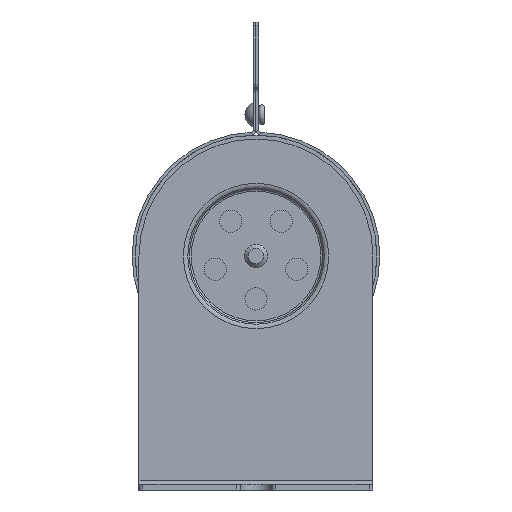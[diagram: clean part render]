
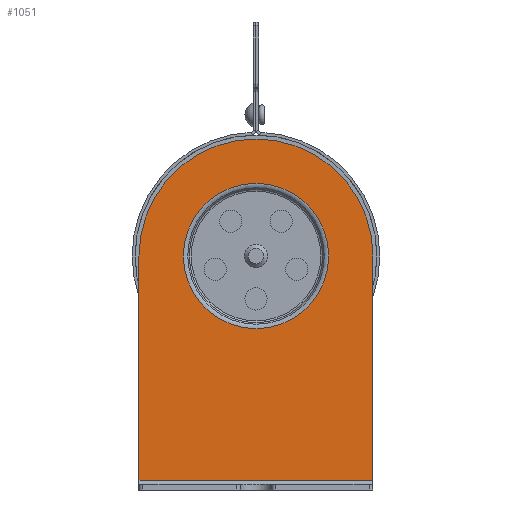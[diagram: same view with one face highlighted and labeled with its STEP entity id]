
A CAD part, left-side view. The second image highlights one B-rep face of the part: STEP entity #1051.
In plain terms, the highlighted planar face has unit normal (-1, 0, 0) as drawn and (1, 0, 0) by its records, which use the part's own axes.
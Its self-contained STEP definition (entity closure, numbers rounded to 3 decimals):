
#1051=ADVANCED_FACE('',(#1904,#1906),#1908,.T.);
#1904=FACE_BOUND('',#1905,.T.);
#1905=EDGE_LOOP('',(#3084,#3085,#3086,#3087));
#1906=FACE_BOUND('',#1907,.T.);
#1907=EDGE_LOOP('',(#3088));
#1908=PLANE('',#1909);
#1909=AXIS2_PLACEMENT_3D('',#1910,#1911,#1912);
#1910=CARTESIAN_POINT('',(1.5,0.,0.));
#1911=DIRECTION('',(1.,0.,0.));
#1912=DIRECTION('',(0.,1.,0.));
#3084=ORIENTED_EDGE('',*,*,#3724,.T.);
#3085=ORIENTED_EDGE('',*,*,#3725,.T.);
#3086=ORIENTED_EDGE('',*,*,#3726,.T.);
#3087=ORIENTED_EDGE('',*,*,#3727,.T.);
#3088=ORIENTED_EDGE('',*,*,#3722,.F.);
#3722=EDGE_CURVE('',#4081,#4081,#4082,.T.);
#3724=EDGE_CURVE('',#4085,#4086,#4087,.T.);
#3725=EDGE_CURVE('',#4086,#4088,#4089,.T.);
#3726=EDGE_CURVE('',#4088,#4090,#4091,.T.);
#3727=EDGE_CURVE('',#4090,#4085,#4092,.T.);
#4081=VERTEX_POINT('',#4717);
#4082=CIRCLE('',#4718,18.64);
#4085=VERTEX_POINT('',#4727);
#4086=VERTEX_POINT('',#4728);
#4087=LINE('',#4729,#4730);
#4088=VERTEX_POINT('',#4732);
#4089=LINE('',#4733,#4734);
#4090=VERTEX_POINT('',#4736);
#4091=CIRCLE('',#4737,30.);
#4092=LINE('',#4741,#4742);
#4717=CARTESIAN_POINT('',(1.5,18.64,15.));
#4718=AXIS2_PLACEMENT_3D('',#4719,#4720,#4721);
#4719=CARTESIAN_POINT('',(1.5,0.,15.));
#4720=DIRECTION('',(1.,0.,0.));
#4721=DIRECTION('',(0.,1.,0.));
#4727=CARTESIAN_POINT('',(1.5,-30.,-42.5));
#4728=CARTESIAN_POINT('',(1.5,30.,-42.5));
#4729=CARTESIAN_POINT('',(1.5,-30.,-42.5));
#4730=VECTOR('',#4731,1.);
#4731=DIRECTION('',(0.,1.,0.));
#4732=CARTESIAN_POINT('',(1.5,30.,15.));
#4733=CARTESIAN_POINT('',(1.5,30.,-42.5));
#4734=VECTOR('',#4735,1.);
#4735=DIRECTION('',(0.,0.,1.));
#4736=CARTESIAN_POINT('',(1.5,-30.,15.));
#4737=AXIS2_PLACEMENT_3D('',#4738,#4739,#4740);
#4738=CARTESIAN_POINT('',(1.5,0.,15.));
#4739=DIRECTION('',(1.,0.,0.));
#4740=DIRECTION('',(0.,1.,0.));
#4741=CARTESIAN_POINT('',(1.5,-30.,15.));
#4742=VECTOR('',#4743,1.);
#4743=DIRECTION('',(0.,0.,-1.));
